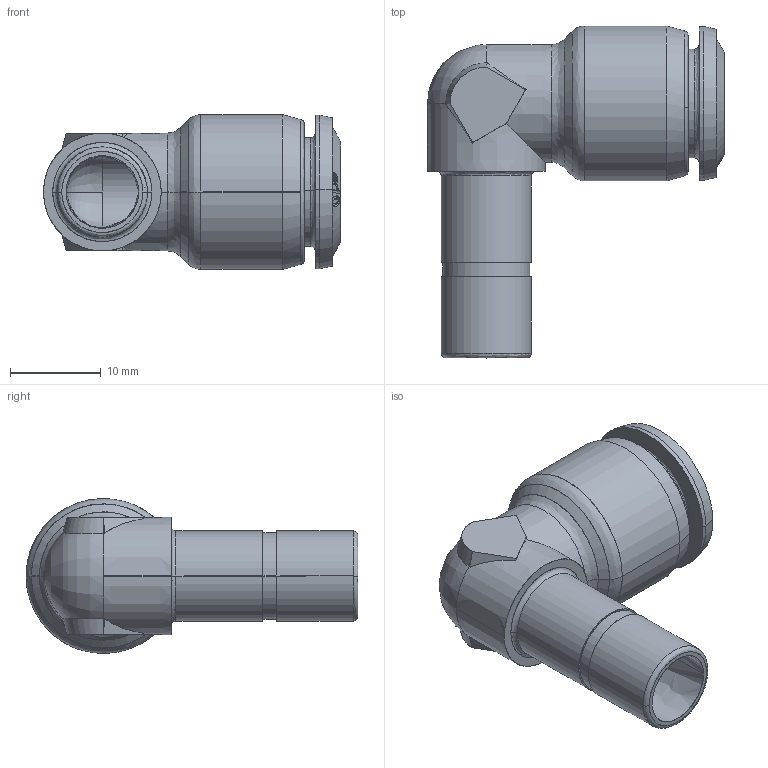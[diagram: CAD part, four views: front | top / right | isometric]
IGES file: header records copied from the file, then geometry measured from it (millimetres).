
Start section: SolidWorks IGES file using analytic representation for surfaces
Global section: file name: K:\Disegni Esecutivi\SERIE 55000\ASSIEMI_55000\55140\5514000009.IGS; native system: SolidWorks 2020; preprocessor: SolidWorks 2020; author: CAD13; date: 241018.153152; units: millimetre
Bounding box: 32.8 x 36.65 x 17.1 mm (x, y, z)
Surface area: 4115.1 mm2 (no closed solid volume)
Topology: 0 solids, 0 shells, 123 faces, 1343 edges, 1340 vertices
Faces by surface type: bspline 73, revolution 50
